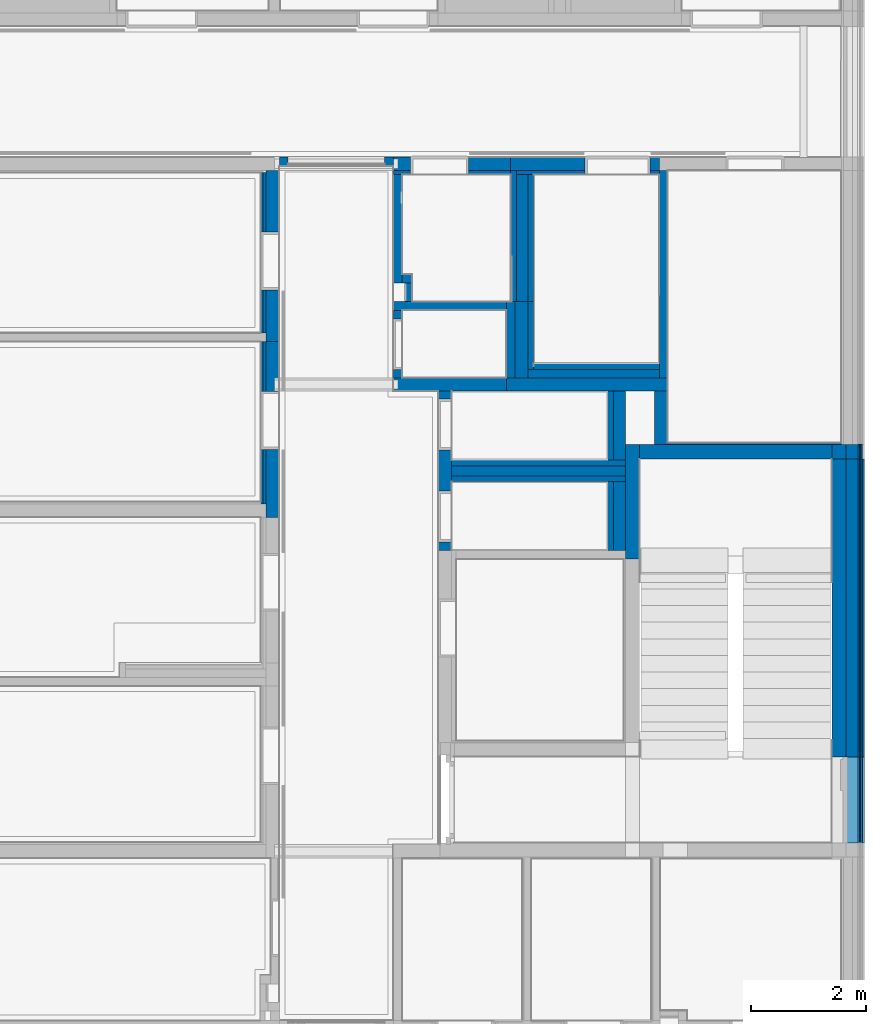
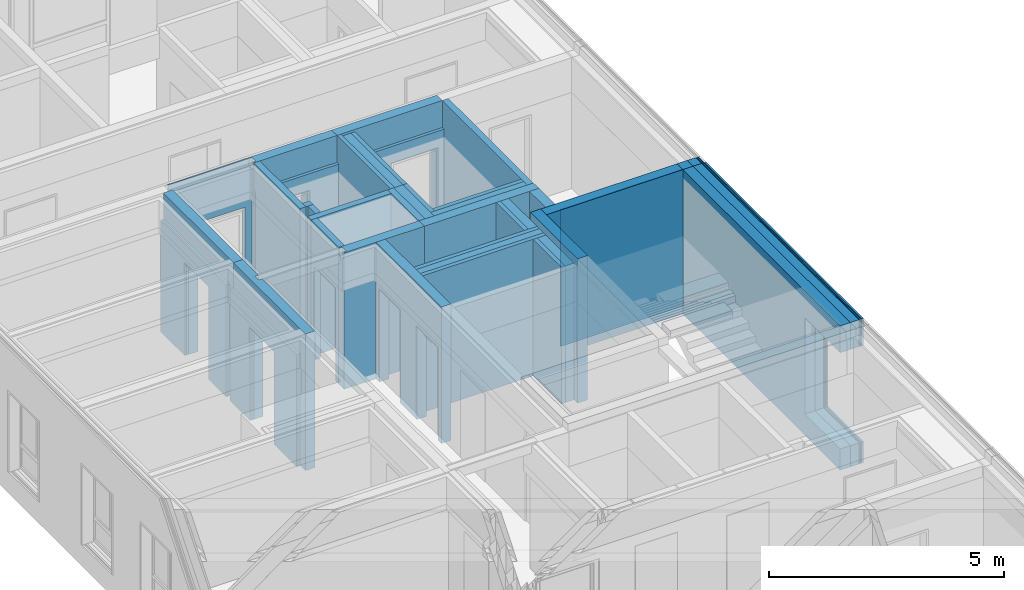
# One storey, part 52 of 222: 50 walls, 20 openings.
"""IFC4 building model written with IfcOpenShell, lengths in metres."""

from ifc_helpers import new_model, entity, si_unit, converted_unit, derived_unit, frame, frame_2d, origin, origin_with_axes, place, context, subcontext, project, spatial, polyline, rectangle, outline, extrude, clip, bounded_halfspace, material, element, save


model = new_model("IFC4")

# Units and contexts
model_context = context("Model", 3, precision=1e-05, world=origin())
body_context = subcontext(model_context, "Body", "Model", "MODEL_VIEW")
ifc_project = project(units=[si_unit("LENGTHUNIT", "METRE"), si_unit("AREAUNIT", "SQUARE_METRE"), si_unit("VOLUMEUNIT", "CUBIC_METRE"), si_unit("MASSUNIT", "GRAM", prefix="KILO"), converted_unit("PLANEANGLEUNIT", "DEGREE", entity("IfcPlaneAngleMeasure", 0.0174532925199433), si_unit("PLANEANGLEUNIT", "RADIAN"), dimensions=[0, 0, 0, 0, 0, 0, 0]), derived_unit("THERMALTRANSMITTANCEUNIT", [(si_unit("POWERUNIT", "WATT"), 1), (si_unit("THERMODYNAMICTEMPERATUREUNIT", "KELVIN"), -1), (si_unit("LENGTHUNIT", "METRE"), -2)]), derived_unit("VOLUMETRICFLOWRATEUNIT", [(si_unit("LENGTHUNIT", "METRE"), 3), (converted_unit("TIMEUNIT", "hour", entity("IfcTimeMeasure", 3600.0), si_unit("TIMEUNIT", "SECOND"), dimensions=[0, 0, 1, 0, 0, 0, 0]), -1), (si_unit("LENGTHUNIT", "METRE"), -1)])], contexts=[model_context])

# Site, building, storey
site_placement = place(None, origin())
site = spatial("IfcSite", under=ifc_project, at=site_placement, Name="Psychiatrie Neubau Wunstorf", CompositionType="ELEMENT")
building_placement = place(site_placement, origin())
building = spatial("IfcBuilding", under=site, at=building_placement, Name="Neubau H2 Stationsgebäude", CompositionType="ELEMENT")
storey_placement = place(building_placement, frame((0.0, 0.0, 3.6)))
storey = spatial("IfcBuildingStorey", under=building, at=storey_placement, Name="H2 Ebene +1", CompositionType="ELEMENT", Elevation=3.6)

# Walls
ifc_material_1 = material(Name="WA-STB")
wall_1_placement = place(storey_placement, frame((105.72, 17.825, 0.0), z_axis=(0.0, 0.0, 1.0), x_axis=(0.0, -1.0, 0.0)))
element("IfcWall", 1, at=wall_1_placement, inside=storey, material=ifc_material_1, context=body_context, shape_type="SweptSolid", body=[
    extrude(rectangle(XDim=0.25, YDim=0.25, at=frame_2d((0.125, 0.125), x_axis=(1.0, 0.0))), origin_with_axes(), (0.0, 0.0, 1.0), 3.75),
])
ifc_material_2 = material(Name="WA-DL")
wall_2_placement = place(storey_placement, frame((105.97, 17.825, 0.0), z_axis=(0.0, 0.0, 1.0), x_axis=(0.0, -1.0, 0.0)))
element("IfcWall", 2, at=wall_2_placement, inside=storey, material=ifc_material_2, context=body_context, shape_type="SweptSolid", body=[
    extrude(rectangle(XDim=0.25, YDim=0.21, at=frame_2d((0.125, 0.105), x_axis=(1.0, 0.0))), origin_with_axes(), (0.0, 0.0, 1.0), 3.75),
])
ifc_material_3 = material(Name="WA-LB")
wall_3_placement = place(storey_placement, frame((106.18, 17.825, 0.0), z_axis=(0.0, 0.0, 1.0), x_axis=(0.0, -1.0, 0.0)))
element("IfcWall", 3, at=wall_3_placement, inside=storey, material=ifc_material_3, context=body_context, shape_type="SweptSolid", body=[
    extrude(rectangle(XDim=0.25, YDim=0.021, at=frame_2d((0.125, 0.0105), x_axis=(1.0, 0.0))), origin_with_axes(), (0.0, 0.0, 1.0), 3.75),
])
ifc_material_4 = material(Name="WA-KL")
wall_4_placement = place(storey_placement, frame((106.201, 17.825, 0.0), z_axis=(0.0, 0.0, 1.0), x_axis=(0.0, -1.0, 0.0)))
element("IfcWall", 4, at=wall_4_placement, inside=storey, material=ifc_material_4, context=body_context, shape_type="SweptSolid", body=[
    extrude(rectangle(XDim=0.25, YDim=0.024, at=frame_2d((0.125, 0.012), x_axis=(1.0, 0.0))), origin_with_axes(), (0.0, 0.0, 1.0), 3.75),
])
ifc_material_5 = material(Name="WA-TL")
wall_5_placement = place(storey_placement, frame((106.225, 17.825, 0.0), z_axis=(0.0, 0.0, 1.0), x_axis=(0.0, -1.0, 0.0)))
element("IfcWall", 5, at=wall_5_placement, inside=storey, material=ifc_material_5, context=body_context, shape_type="SweptSolid", body=[
    extrude(rectangle(XDim=0.25, YDim=0.024, at=frame_2d((0.125, 0.012), x_axis=(1.0, 0.0))), origin_with_axes(), (0.0, 0.0, 1.0), 3.75),
])

# Wall, opening
ifc_material_6 = material(Name="WA-STB")
wall_6_placement = place(storey_placement, frame((105.72, 17.575, 0.0), z_axis=(0.0, 0.0, 1.0), x_axis=(0.0, -1.0, 0.0)))
wall_6 = element("IfcWall", 6, at=wall_6_placement, inside=storey, material=ifc_material_6, context=body_context, shape_type="SweptSolid", body=[
    extrude(rectangle(XDim=6.70000010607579, YDim=0.25, at=frame_2d((3.3500000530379, 0.125), x_axis=(1.0, 0.0))), origin_with_axes(), (0.0, 0.0, 1.0), 3.75),
])
opening_1_placement = place(wall_6_placement, frame((6.70000010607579, 0.25, 0.55), z_axis=(0.0, -1.0, 0.0), x_axis=(0.0, 0.0, 1.0)))
element("IfcOpeningElement", 7, at=opening_1_placement, cuts=wall_6, Name="Fensteröffnung", ObjectType="Opening", context=body_context, shape_type="SweptSolid", body=[
    extrude(outline(polyline([(2.5, 1.5), (2.5, 0.0), (0.0, 0.0), (0.0, 1.5), (2.5, 1.5)])), origin_with_axes(), (0.0, 0.0, 1.0), 0.25),
])

ifc_material_7 = material(Name="WA-DL")
wall_7_placement = place(storey_placement, frame((105.97, 17.575, 0.0), z_axis=(0.0, 0.0, 1.0), x_axis=(0.0, -1.0, 0.0)))
wall_7 = element("IfcWall", 8, at=wall_7_placement, inside=storey, material=ifc_material_7, context=body_context, shape_type="SweptSolid", body=[
    extrude(rectangle(XDim=6.70000010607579, YDim=0.21, at=frame_2d((3.3500000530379, 0.105), x_axis=(1.0, 0.0))), origin_with_axes(), (0.0, 0.0, 1.0), 3.75),
])
opening_2_placement = place(wall_7_placement, frame((6.70000010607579, 0.21, 0.55), z_axis=(0.0, -1.0, 0.0), x_axis=(0.0, 0.0, 1.0)))
element("IfcOpeningElement", 9, at=opening_2_placement, cuts=wall_7, Name="Fensteröffnung", ObjectType="Opening", context=body_context, shape_type="SweptSolid", body=[
    extrude(outline(polyline([(2.5, 1.5), (2.5, 0.0), (0.0, 0.0), (0.0, 1.5), (2.5, 1.5)])), origin_with_axes(), (0.0, 0.0, 1.0), 0.21),
])

ifc_material_8 = material(Name="WA-LB")
wall_8_placement = place(storey_placement, frame((106.18, 17.575, 0.0), z_axis=(0.0, 0.0, 1.0), x_axis=(0.0, -1.0, 0.0)))
wall_8 = element("IfcWall", 10, at=wall_8_placement, inside=storey, material=ifc_material_8, context=body_context, shape_type="SweptSolid", body=[
    extrude(rectangle(XDim=6.70000010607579, YDim=0.021, at=frame_2d((3.3500000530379, 0.0105), x_axis=(1.0, 0.0))), origin_with_axes(), (0.0, 0.0, 1.0), 3.75),
])
opening_3_placement = place(wall_8_placement, frame((6.70000010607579, 0.021, 0.55), z_axis=(0.0, -1.0, 0.0), x_axis=(0.0, 0.0, 1.0)))
element("IfcOpeningElement", 11, at=opening_3_placement, cuts=wall_8, Name="Fensteröffnung", ObjectType="Opening", context=body_context, shape_type="SweptSolid", body=[
    extrude(outline(polyline([(2.5, 1.5), (2.5, 0.0), (0.0, 0.0), (0.0, 1.5), (2.5, 1.5)])), origin_with_axes(), (0.0, 0.0, 1.0), 0.021),
])

ifc_material_9 = material(Name="WA-KL")
wall_9_placement = place(storey_placement, frame((106.201, 17.575, 0.0), z_axis=(0.0, 0.0, 1.0), x_axis=(0.0, -1.0, 0.0)))
wall_9 = element("IfcWall", 12, at=wall_9_placement, inside=storey, material=ifc_material_9, context=body_context, shape_type="SweptSolid", body=[
    extrude(rectangle(XDim=6.70000010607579, YDim=0.024, at=frame_2d((3.3500000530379, 0.012), x_axis=(1.0, 0.0))), origin_with_axes(), (0.0, 0.0, 1.0), 3.75),
])
opening_4_placement = place(wall_9_placement, frame((6.70000010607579, 0.024, 0.55), z_axis=(0.0, -1.0, 0.0), x_axis=(0.0, 0.0, 1.0)))
element("IfcOpeningElement", 13, at=opening_4_placement, cuts=wall_9, Name="Fensteröffnung", ObjectType="Opening", context=body_context, shape_type="SweptSolid", body=[
    extrude(outline(polyline([(2.5, 1.5), (2.5, 0.0), (0.0, 0.0), (0.0, 1.5), (2.5, 1.5)])), origin_with_axes(), (0.0, 0.0, 1.0), 0.024),
])

ifc_material_10 = material(Name="WA-TL")
wall_10_placement = place(storey_placement, frame((106.225, 17.575, 0.0), z_axis=(0.0, 0.0, 1.0), x_axis=(0.0, -1.0, 0.0)))
wall_10 = element("IfcWall", 14, at=wall_10_placement, inside=storey, material=ifc_material_10, context=body_context, shape_type="SweptSolid", body=[
    extrude(rectangle(XDim=6.70000010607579, YDim=0.024, at=frame_2d((3.3500000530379, 0.012), x_axis=(1.0, 0.0))), origin_with_axes(), (0.0, 0.0, 1.0), 3.75),
])
opening_5_placement = place(wall_10_placement, frame((6.70000010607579, 0.024, 0.55), z_axis=(0.0, -1.0, 0.0), x_axis=(0.0, 0.0, 1.0)))
element("IfcOpeningElement", 15, at=opening_5_placement, cuts=wall_10, Name="Fensteröffnung", ObjectType="Opening", context=body_context, shape_type="SweptSolid", body=[
    extrude(outline(polyline([(2.5, 1.5), (2.5, 0.0), (0.0, 0.0), (0.0, 1.5), (2.5, 1.5)])), origin_with_axes(), (0.0, 0.0, 1.0), 0.024),
])

ifc_material_11 = material(Name="WA-HS")
wall_11_placement = place(storey_placement, frame((106.249, 17.575, 0.0), z_axis=(0.0, 0.0, 1.0), x_axis=(0.0, -1.0, 0.0)))
wall_11 = element("IfcWall", 16, at=wall_11_placement, inside=storey, material=ifc_material_11, context=body_context, shape_type="SweptSolid", body=[
    extrude(rectangle(XDim=6.70000010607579, YDim=0.042, at=frame_2d((3.3500000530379, 0.021), x_axis=(1.0, 0.0))), origin_with_axes(), (0.0, 0.0, 1.0), 3.75),
])
opening_6_placement = place(wall_11_placement, frame((6.70000010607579, 0.042, 0.55), z_axis=(0.0, -1.0, 0.0), x_axis=(0.0, 0.0, 1.0)))
element("IfcOpeningElement", 17, at=opening_6_placement, cuts=wall_11, Name="Fensteröffnung", ObjectType="Opening", context=body_context, shape_type="SweptSolid", body=[
    extrude(outline(polyline([(2.5, 1.5), (2.5, 0.0), (0.0, 0.0), (0.0, 1.5), (2.5, 1.5)])), origin_with_axes(), (0.0, 0.0, 1.0), 0.042),
])

ifc_material_12 = material(Name="WI-LB")
wall_12_placement = place(storey_placement, frame((98.225, 18.9860040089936, 0.0), z_axis=(0.0, 0.0, 1.0), x_axis=(0.0, 1.0, 0.0)))
wall_12 = element("IfcWall", 18, at=wall_12_placement, inside=storey, material=ifc_material_12, context=body_context, shape_type="SweptSolid", body=[
    extrude(rectangle(XDim=1.17898976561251, YDim=0.15, at=frame_2d((0.589494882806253, 0.075), x_axis=(1.0, 0.0))), origin_with_axes(), (0.0, 0.0, 1.0), 3.55),
])
opening_7_placement = place(wall_12_placement, frame((1.02898976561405, 0.15, 0.0), z_axis=(0.0, -1.0, 0.0), x_axis=(0.0, 0.0, 1.0)))
element("IfcOpeningElement", 19, at=opening_7_placement, cuts=wall_12, Name="Türöffnung", ObjectType="Opening", context=body_context, shape_type="SweptSolid", body=[
    extrude(outline(polyline([(2.41, 0.885000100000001), (2.41, 0.0), (0.0, 0.0), (0.0, 0.885000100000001), (2.41, 0.885000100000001)])), origin_with_axes(), (0.0, 0.0, 1.0), 0.15),
])

# Wall
ifc_material_13 = material(Name="WI-LB")
wall_13_placement = place(storey_placement, frame((100.194993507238, 18.9860040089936, 0.0), z_axis=(0.0, 0.0, 1.0), x_axis=(-7.33833778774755e-09, 1.0, 0.0)))
element("IfcWall", 20, at=wall_13_placement, inside=storey, material=ifc_material_13, context=body_context, shape_type="SweptSolid", body=[
    extrude(rectangle(XDim=1.32900184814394, YDim=0.150006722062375, at=frame_2d((0.66450092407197, 0.0750033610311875), x_axis=(1.0, 0.0))), origin_with_axes(), (0.0, 0.0, 1.0), 3.55),
])

# Wall, openings
ifc_material_14 = material(Name="WI-HW 60")
wall_14_placement = place(storey_placement, frame((98.8589999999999, 18.7540040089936, 0.0), z_axis=(0.0, 0.0, 1.0), x_axis=(0.0, -1.0, 0.0)))
wall_14 = element("IfcWall", 21, at=wall_14_placement, inside=storey, material=ifc_material_14, context=body_context, shape_type="SweptSolid", body=[
    extrude(rectangle(XDim=2.7790026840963, YDim=0.232, at=frame_2d((1.38950134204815, 0.116), x_axis=(1.0, 0.0))), origin_with_axes(), (0.0, 0.0, 1.0), 3.55),
])
opening_8_placement = place(wall_14_placement, frame((1.7440026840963, 0.0, 0.0), z_axis=(0.0, 1.0, 0.0), x_axis=(0.0, 0.0, 1.0)))
element("IfcOpeningElement", 22, at=opening_8_placement, cuts=wall_14, Name="Türöffnung", ObjectType="Opening", context=body_context, shape_type="SweptSolid", body=[
    extrude(outline(polyline([(2.41, 0.885), (2.41, 0.0), (0.0, 0.0), (0.0, 0.885), (2.41, 0.885)])), origin_with_axes(), (0.0, 0.0, 1.0), 0.232),
])
opening_9_placement = place(wall_14_placement, frame((0.139001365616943, 0.0, 0.0), z_axis=(0.0, 1.0, 0.0), x_axis=(0.0, 0.0, 1.0)))
element("IfcOpeningElement", 23, at=opening_9_placement, cuts=wall_14, Name="Türöffnung", ObjectType="Opening", context=body_context, shape_type="SweptSolid", body=[
    extrude(outline(polyline([(2.41, 0.885), (2.41, 0.0), (0.0, 0.0), (0.0, 0.885), (2.41, 0.885)])), origin_with_axes(), (0.0, 0.0, 1.0), 0.232),
])

# Walls
ifc_material_15 = material(Name="WI-HW 60")
wall_15_placement = place(storey_placement, frame((100.044986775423, 18.9860040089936, 0.0), z_axis=(0.0, 0.0, 1.0), x_axis=(-1.0, 0.0, 0.0)))
element("IfcWall", 24, at=wall_15_placement, inside=storey, material=ifc_material_15, context=body_context, shape_type="Clipping", body=[
    clip(extrude(rectangle(XDim=1.96998677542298, YDim=0.232, at=frame_2d((0.984993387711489, 0.116), x_axis=(1.0, 0.0))), origin_with_axes(), (0.0, 0.0, 1.0), 3.55), bounded_halfspace(frame((1.93248679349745, 0.115995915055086, 3.35), z_axis=(0.0, 0.0, -1.0), x_axis=(0.0, 1.0, 0.0)), True, origin_with_axes(), polyline([(1.96998677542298, 0.0359959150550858), (1.96998677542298, 0.195995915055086), (1.89498681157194, 0.195995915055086), (1.89498681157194, 0.0359959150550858), (1.96998677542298, 0.0359959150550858)]))),
])
ifc_material_16 = material(Name="WI-HW 60")
wall_16_placement = place(storey_placement, frame((102.861, 18.9860037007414, 0.0), z_axis=(0.0, 0.0, 1.0), x_axis=(-0.999999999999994, 1.09464024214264e-07, 0.0)))
element("IfcWall", 25, at=wall_16_placement, inside=storey, material=ifc_material_16, context=body_context, shape_type="SweptSolid", body=[
    extrude(outline(polyline([(-2.81601319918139, -0.231999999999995), (-0.150006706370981, -0.231991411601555), (2.53956536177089e-08, -0.231999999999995), (0.0, 0.0), (-2.81601322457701, -3.08252150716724e-07), (-2.81601319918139, -0.231999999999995)])), frame((2.81601319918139, 0.231999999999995, 0.0), z_axis=(0.0, 0.0, 1.0), x_axis=(1.0, 0.0, 0.0)), (0.0, 0.0, 1.0), 3.55),
])
ifc_material_17 = material(Name="WI-HW 60")
wall_17_placement = place(storey_placement, frame((102.861, 17.825, 0.0), z_axis=(0.0, 0.0, 1.0), x_axis=(0.0, 1.0, 0.0)))
element("IfcWall", 26, at=wall_17_placement, inside=storey, material=ifc_material_17, context=body_context, shape_type="SweptSolid", body=[
    extrude(rectangle(XDim=0.929004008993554, YDim=0.232, at=frame_2d((0.464502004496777, 0.116), x_axis=(1.0, 0.0))), origin_with_axes(), (0.0, 0.0, 1.0), 3.55),
])
ifc_material_18 = material(Name="WI-LB")
wall_18_placement = place(storey_placement, frame((100.044986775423, 20.3150058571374, 0.0), z_axis=(0.0, 0.0, 1.0), x_axis=(-1.0, -9.47356286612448e-13, 0.0)))
element("IfcWall", 27, at=wall_18_placement, inside=storey, material=ifc_material_18, context=body_context, shape_type="SweptSolid", body=[
    extrude(rectangle(XDim=1.969990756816, YDim=0.150006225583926, at=frame_2d((0.984995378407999, 0.0750031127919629), x_axis=(1.0, 0.0))), origin_with_axes(), (0.0, 0.0, 1.0), 3.55),
])
ifc_material_19 = material(Name="WI-LB")
wall_19_placement = place(storey_placement, frame((102.861, 17.825, 0.0)))
element("IfcWall", 28, at=wall_19_placement, inside=storey, material=ifc_material_19, context=body_context, shape_type="SweptSolid", body=[
    extrude(rectangle(XDim=3.028, YDim=0.0299996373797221, at=frame_2d((1.514, 0.0149998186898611), x_axis=(1.0, 0.0))), origin_with_axes(), (0.0, 0.0, 1.0), 3.55),
])

# Wall, opening
ifc_material_20 = material(Name="WI-LB")
wall_20_placement = place(storey_placement, frame((95.7609999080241, 19.618, 0.0), z_axis=(0.0, 0.0, 1.0), x_axis=(0.0, -1.0, 0.0)))
wall_20 = element("IfcWall", 29, at=wall_20_placement, inside=storey, material=ifc_material_20, context=body_context, shape_type="SweptSolid", body=[
    extrude(rectangle(XDim=2.8325, YDim=0.0395, at=frame_2d((1.41625, 0.01975), x_axis=(1.0, 0.0))), origin_with_axes(), (0.0, 0.0, 1.0), 2.9),
])
opening_10_placement = place(wall_20_placement, frame((1.87810239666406, 0.0395, 0.0), z_axis=(0.0, -1.0, 0.0), x_axis=(0.0, 0.0, 1.0)))
element("IfcOpeningElement", 30, at=opening_10_placement, cuts=wall_20, Name="Türöffnung", ObjectType="Opening", context=body_context, shape_type="SweptSolid", body=[
    extrude(outline(polyline([(2.41, 1.01), (2.41, 0.0), (0.0, 0.0), (0.0, 1.01), (2.41, 1.01)])), origin_with_axes(), (0.0, 0.0, 1.0), 0.0395),
])

ifc_material_21 = material(Name="Installationsraum")
wall_21_placement = place(storey_placement, frame((95.8004999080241, 19.618, 0.0), z_axis=(0.0, 0.0, 1.0), x_axis=(0.0, -1.0, 0.0)))
wall_21 = element("IfcWall", 31, at=wall_21_placement, inside=storey, material=ifc_material_21, context=body_context, shape_type="SweptSolid", body=[
    extrude(rectangle(XDim=2.8325, YDim=0.05, at=frame_2d((1.41625, 0.025), x_axis=(1.0, 0.0))), origin_with_axes(), (0.0, 0.0, 1.0), 2.9),
])
opening_11_placement = place(wall_21_placement, frame((1.87810239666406, 0.05, 0.0), z_axis=(0.0, -1.0, 0.0), x_axis=(0.0, 0.0, 1.0)))
element("IfcOpeningElement", 32, at=opening_11_placement, cuts=wall_21, Name="Türöffnung", ObjectType="Opening", context=body_context, shape_type="SweptSolid", body=[
    extrude(outline(polyline([(2.41, 1.01), (2.41, 0.0), (0.0, 0.0), (0.0, 1.01), (2.41, 1.01)])), origin_with_axes(), (0.0, 0.0, 1.0), 0.05),
])

ifc_material_22 = material(Name="WI-HW 60")
wall_22_placement = place(storey_placement, frame((95.8504999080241, 19.618, 0.0), z_axis=(0.0, 0.0, 1.0), x_axis=(0.0, -1.0, 0.0)))
wall_22 = element("IfcWall", 33, at=wall_22_placement, inside=storey, material=ifc_material_22, context=body_context, shape_type="Clipping", body=[
    clip(extrude(rectangle(XDim=3.0645, YDim=0.232, at=frame_2d((1.53225, 0.116), x_axis=(1.0, 0.0))), origin_with_axes(), (0.0, 0.0, 1.0), 3.55), bounded_halfspace(frame((0.747991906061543, 0.19075002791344, 3.35), z_axis=(0.0, 0.0, -1.0), x_axis=(1.0, 0.0, 0.0)), True, origin_with_axes(), polyline([(0.667991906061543, 0.149500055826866), (0.827991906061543, 0.149500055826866), (0.827991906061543, 0.232000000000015), (0.667991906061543, 0.232000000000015), (0.667991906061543, 0.149500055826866)]))),
])
opening_12_placement = place(wall_22_placement, frame((1.87810239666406, 0.232, 0.0), z_axis=(0.0, -1.0, 0.0), x_axis=(0.0, 0.0, 1.0)))
element("IfcOpeningElement", 34, at=opening_12_placement, cuts=wall_22, Name="Türöffnung", ObjectType="Opening", context=body_context, shape_type="SweptSolid", body=[
    extrude(outline(polyline([(2.41, 1.01), (2.41, 0.0), (0.0, 0.0), (0.0, 1.01), (2.41, 1.01)])), origin_with_axes(), (0.0, 0.0, 1.0), 0.232),
])

ifc_material_23 = material(Name="WI-LB")
wall_23_placement = place(storey_placement, frame((95.7609999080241, 22.564, 0.0), z_axis=(0.0, 0.0, 1.0), x_axis=(0.0, -1.0, 0.0)))
wall_23 = element("IfcWall", 35, at=wall_23_placement, inside=storey, material=ifc_material_23, context=body_context, shape_type="SweptSolid", body=[
    extrude(rectangle(XDim=2.796, YDim=0.0395, at=frame_2d((1.398, 0.01975), x_axis=(1.0, 0.0))), origin_with_axes(), (0.0, 0.0, 1.0), 2.9),
])
opening_13_placement = place(wall_23_placement, frame((2.046, 0.0395, 0.0), z_axis=(0.0, -1.0, 0.0), x_axis=(0.0, 0.0, 1.0)))
element("IfcOpeningElement", 36, at=opening_13_placement, cuts=wall_23, Name="Türöffnung", ObjectType="Opening", context=body_context, shape_type="SweptSolid", body=[
    extrude(outline(polyline([(2.41, 1.01), (2.41, 0.0), (0.0, 0.0), (0.0, 1.01), (2.41, 1.01)])), origin_with_axes(), (0.0, 0.0, 1.0), 0.0395),
])

ifc_material_24 = material(Name="Installationsraum")
wall_24_placement = place(storey_placement, frame((95.8004999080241, 22.564, 0.0), z_axis=(0.0, 0.0, 1.0), x_axis=(0.0, -1.0, 0.0)))
wall_24 = element("IfcWall", 37, at=wall_24_placement, inside=storey, material=ifc_material_24, context=body_context, shape_type="SweptSolid", body=[
    extrude(rectangle(XDim=2.796, YDim=0.05, at=frame_2d((1.398, 0.025), x_axis=(1.0, 0.0))), origin_with_axes(), (0.0, 0.0, 1.0), 2.9),
])
opening_14_placement = place(wall_24_placement, frame((2.046, 0.05, 0.0), z_axis=(0.0, -1.0, 0.0), x_axis=(0.0, 0.0, 1.0)))
element("IfcOpeningElement", 38, at=opening_14_placement, cuts=wall_24, Name="Türöffnung", ObjectType="Opening", context=body_context, shape_type="SweptSolid", body=[
    extrude(outline(polyline([(2.41, 1.01), (2.41, 0.0), (0.0, 0.0), (0.0, 1.01), (2.41, 1.01)])), origin_with_axes(), (0.0, 0.0, 1.0), 0.05),
])

ifc_material_25 = material(Name="WI-HW 60")
wall_25_placement = place(storey_placement, frame((95.8504999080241, 22.604, 0.0), z_axis=(0.0, 0.0, 1.0), x_axis=(0.0, -1.0, 0.0)))
wall_25 = element("IfcWall", 39, at=wall_25_placement, inside=storey, material=ifc_material_25, context=body_context, shape_type="SweptSolid", body=[
    extrude(rectangle(XDim=2.986, YDim=0.232, at=frame_2d((1.493, 0.116), x_axis=(1.0, 0.0))), origin_with_axes(), (0.0, 0.0, 1.0), 3.55),
])
opening_15_placement = place(wall_25_placement, frame((2.086, 0.232, 0.0), z_axis=(0.0, -1.0, 0.0), x_axis=(0.0, 0.0, 1.0)))
element("IfcOpeningElement", 40, at=opening_15_placement, cuts=wall_25, Name="Türöffnung", ObjectType="Opening", context=body_context, shape_type="SweptSolid", body=[
    extrude(outline(polyline([(2.41, 1.01), (2.41, 0.0), (0.0, 0.0), (0.0, 1.01), (2.41, 1.01)])), origin_with_axes(), (0.0, 0.0, 1.0), 0.232),
])

# Wall
ifc_material_26 = material(Name="WI-LB")
wall_26_placement = place(storey_placement, frame((98.075, 22.604, 0.0), z_axis=(0.0, 0.0, 1.0), x_axis=(0.0, -1.0, 0.0)))
element("IfcWall", 41, at=wall_26_placement, inside=storey, material=ifc_material_26, context=body_context, shape_type="SweptSolid", body=[
    extrude(outline(polyline([(-1.96400428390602, 0.0), (0.0, 0.0), (0.0, 0.15000497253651), (-0.15, 0.15000497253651), (-1.96400428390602, 0.150000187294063), (-1.96400428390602, 0.0)])), frame((1.96400428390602, 0.0, 0.0), z_axis=(0.0, 0.0, 1.0), x_axis=(1.0, 0.0, 0.0)), (0.0, 0.0, 1.0), 3.55),
])

# Wall, opening
ifc_material_27 = material(Name="WI-LB")
wall_27_placement = place(storey_placement, frame((98.075, 22.5290000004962, 0.0)))
wall_27 = element("IfcWall", 42, at=wall_27_placement, inside=storey, material=ifc_material_27, context=body_context, shape_type="SweptSolid", body=[
    extrude(rectangle(XDim=2.04499214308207, YDim=0.075, at=frame_2d((1.02249607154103, 0.0375), x_axis=(1.0, 0.0))), origin_with_axes(), (0.0, 0.0, 1.0), 2.85),
])
opening_16_placement = place(wall_27_placement, frame((0.300006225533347, 0.0, 0.0), z_axis=(0.0, 1.0, 0.0), x_axis=(0.0, 0.0, 1.0)))
element("IfcOpeningElement", 43, at=opening_16_placement, cuts=wall_27, Name="Türöffnung", ObjectType="Opening", context=body_context, shape_type="SweptSolid", body=[
    extrude(outline(polyline([(2.41, 1.01), (2.41, 0.0), (0.0, 0.0), (0.0, 1.01), (2.41, 1.01)])), origin_with_axes(), (0.0, 0.0, 1.0), 0.075),
])

ifc_material_28 = material(Name="WI-HW 60")
wall_28_placement = place(storey_placement, frame((98.075, 22.6040000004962, 0.0)))
wall_28 = element("IfcWall", 44, at=wall_28_placement, inside=storey, material=ifc_material_28, context=body_context, shape_type="Clipping", body=[
    clip(extrude(rectangle(XDim=2.04499209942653, YDim=0.232000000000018, at=frame_2d((1.02249604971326, 0.116000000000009), x_axis=(1.0, 0.0))), origin_with_axes(), (0.0, 0.0, 1.0), 3.55), bounded_halfspace(frame((0.0374999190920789, 0.116002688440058, 3.35), z_axis=(0.0, 0.0, -1.0), x_axis=(-2.11934093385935e-08, -1.0, 0.0)), True, origin_with_axes(), polyline([(0.0, 0.196002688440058), (0.0, 0.0360026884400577), (0.0749998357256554, 0.0360026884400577), (0.0749998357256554, 0.196002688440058), (0.0, 0.196002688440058)]))),
])
opening_17_placement = place(wall_28_placement, frame((0.300006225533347, 0.0, 0.0), z_axis=(0.0, 1.0, 0.0), x_axis=(0.0, 0.0, 1.0)))
element("IfcOpeningElement", 45, at=opening_17_placement, cuts=wall_28, Name="Türöffnung", ObjectType="Opening", context=body_context, shape_type="SweptSolid", body=[
    extrude(outline(polyline([(2.41, 1.01), (2.41, 0.0), (0.0, 0.0), (0.0, 1.01), (2.41, 1.01)])), origin_with_axes(), (0.0, 0.0, 1.0), 0.232),
])

ifc_material_29 = material(Name="WI-LB")
wall_29_placement = place(storey_placement, frame((100.21999212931, 22.5290000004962, 0.0)))
wall_29 = element("IfcWall", 46, at=wall_29_placement, inside=storey, material=ifc_material_29, context=body_context, shape_type="SweptSolid", body=[
    extrude(rectangle(XDim=2.49100137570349, YDim=0.075, at=frame_2d((1.24550068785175, 0.0375), x_axis=(1.0, 0.0))), origin_with_axes(), (0.0, 0.0, 1.0), 2.85),
])
opening_18_placement = place(wall_29_placement, frame((1.19500137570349, 0.0, 0.0), z_axis=(0.0, 1.0, 0.0), x_axis=(0.0, 0.0, 1.0)))
element("IfcOpeningElement", 47, at=opening_18_placement, cuts=wall_29, Name="Türöffnung", ObjectType="Opening", context=body_context, shape_type="SweptSolid", body=[
    extrude(outline(polyline([(2.41, 1.135), (2.41, 0.0), (0.0, 0.0), (0.0, 1.135), (2.41, 1.135)])), origin_with_axes(), (0.0, 0.0, 1.0), 0.075),
])

ifc_material_30 = material(Name="WI-HW 60")
wall_30_placement = place(storey_placement, frame((100.119992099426, 22.6040000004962, 0.0)))
wall_30 = element("IfcWall", 48, at=wall_30_placement, inside=storey, material=ifc_material_30, context=body_context, shape_type="SweptSolid", body=[
    extrude(rectangle(XDim=2.59100140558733, YDim=0.232, at=frame_2d((1.29550070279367, 0.116), x_axis=(1.0, 0.0))), origin_with_axes(), (0.0, 0.0, 1.0), 3.55),
])
opening_19_placement = place(wall_30_placement, frame((1.29500140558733, 0.0, 0.0), z_axis=(0.0, 1.0, 0.0), x_axis=(0.0, 0.0, 1.0)))
element("IfcOpeningElement", 49, at=opening_19_placement, cuts=wall_30, Name="Türöffnung", ObjectType="Opening", context=body_context, shape_type="SweptSolid", body=[
    extrude(outline(polyline([(2.41, 1.135), (2.41, 0.0), (0.0, 0.0), (0.0, 1.135), (2.41, 1.135)])), origin_with_axes(), (0.0, 0.0, 1.0), 0.232),
])

# Walls
ifc_material_31 = material(Name="WI-LB")
wall_31_placement = place(storey_placement, frame((102.861, 18.9860037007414, 0.0), z_axis=(0.0, 0.0, 1.0), x_axis=(0.0, 1.0, 0.0)))
element("IfcWall", 50, at=wall_31_placement, inside=storey, material=ifc_material_31, context=body_context, shape_type="SweptSolid", body=[
    extrude(rectangle(XDim=3.61799633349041, YDim=0.150006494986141, at=frame_2d((1.8089981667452, 0.0750032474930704), x_axis=(1.0, 0.0))), origin_with_axes(), (0.0, 0.0, 1.0), 3.55),
])
ifc_material_32 = material(Name="WI-IW")
wall_32_placement = place(storey_placement, frame((100.119992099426, 22.6040000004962, 0.0), z_axis=(0.0, 0.0, 1.0), x_axis=(3.98451295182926e-07, -0.999999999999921, 0.0)))
element("IfcWall", 51, at=wall_32_placement, inside=storey, material=ifc_material_32, context=body_context, shape_type="SweptSolid", body=[
    extrude(rectangle(XDim=2.28899414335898, YDim=0.1, at=frame_2d((1.14449707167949, 0.05), x_axis=(1.0, 0.0))), origin_with_axes(), (0.0, 0.0, 1.0), 3.55),
])
ifc_material_33 = material(Name="Installationsraum")
wall_33_placement = place(storey_placement, frame((100.21999212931, 22.5290000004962, 0.0), z_axis=(0.0, 0.0, 1.0), x_axis=(3.98451297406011e-07, -0.999999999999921, 0.0)))
element("IfcWall", 52, at=wall_33_placement, inside=storey, material=ifc_material_33, context=body_context, shape_type="SweptSolid", body=[
    extrude(rectangle(XDim=2.21399414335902, YDim=0.200000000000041, at=frame_2d((1.10699707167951, 0.100000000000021), x_axis=(1.0, 0.0))), origin_with_axes(), (0.0, 0.0, 1.0), 3.55),
])
ifc_material_34 = material(Name="WI-IW")
wall_34_placement = place(storey_placement, frame((100.41999212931, 22.5290000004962, 0.0), z_axis=(0.0, 0.0, 1.0), x_axis=(3.9845129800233e-07, -0.999999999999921, 0.0)))
element("IfcWall", 53, at=wall_34_placement, inside=storey, material=ifc_material_34, context=body_context, shape_type="SweptSolid", body=[
    extrude(rectangle(XDim=2.21399421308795, YDim=0.0999999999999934, at=frame_2d((1.10699710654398, 0.0499999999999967), x_axis=(1.0, 0.0))), origin_with_axes(), (0.0, 0.0, 1.0), 3.55),
])
ifc_material_35 = material(Name="Installationsraum")
wall_35_placement = place(storey_placement, frame((100.419993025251, 18.9860032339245, 0.0)))
element("IfcWall", 54, at=wall_35_placement, inside=storey, material=ifc_material_35, context=body_context, shape_type="SweptSolid", body=[
    extrude(rectangle(XDim=2.29100047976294, YDim=0.15, at=frame_2d((1.14550023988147, 0.075), x_axis=(1.0, 0.0))), origin_with_axes(), (0.0, 0.0, 1.0), 3.55),
])
ifc_material_36 = material(Name="WI-VS")
wall_36_placement = place(storey_placement, frame((100.519993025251, 19.1360032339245, 0.0)))
element("IfcWall", 55, at=wall_36_placement, inside=storey, material=ifc_material_36, context=body_context, shape_type="SweptSolid", body=[
    extrude(rectangle(XDim=2.19100047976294, YDim=0.1, at=frame_2d((1.09550023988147, 0.05), x_axis=(1.0, 0.0))), origin_with_axes(), (0.0, 0.0, 1.0), 3.55),
])
ifc_material_37 = material(Name="Installationsraum")
wall_37_placement = place(storey_placement, frame((102.12, 17.5520026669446, 0.0), z_axis=(0.0, 0.0, 1.0), x_axis=(0.0, 1.0, 0.0)))
element("IfcWall", 56, at=wall_37_placement, inside=storey, material=ifc_material_37, context=body_context, shape_type="SweptSolid", body=[
    extrude(rectangle(XDim=1.20200134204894, YDim=0.21, at=frame_2d((0.601000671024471, 0.105), x_axis=(1.0, 0.0))), origin_with_axes(), (0.0, 0.0, 1.0), 3.55),
])
ifc_material_38 = material(Name="WI-VS")
wall_38_placement = place(storey_placement, frame((101.91, 17.5520026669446, 0.0), z_axis=(0.0, 0.0, 1.0), x_axis=(0.0, 1.0, 0.0)))
element("IfcWall", 57, at=wall_38_placement, inside=storey, material=ifc_material_38, context=body_context, shape_type="SweptSolid", body=[
    extrude(rectangle(XDim=1.20200134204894, YDim=0.1, at=frame_2d((0.601000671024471, 0.05), x_axis=(1.0, 0.0))), origin_with_axes(), (0.0, 0.0, 1.0), 3.55),
])
ifc_material_39 = material(Name="Installationsraum")
wall_39_placement = place(storey_placement, frame((102.12, 15.9749998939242, 0.0), z_axis=(0.0, 0.0, 1.0), x_axis=(0.0, 1.0, 0.0)))
element("IfcWall", 58, at=wall_39_placement, inside=storey, material=ifc_material_39, context=body_context, shape_type="SweptSolid", body=[
    extrude(rectangle(XDim=1.20200277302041, YDim=0.21, at=frame_2d((0.601001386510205, 0.105), x_axis=(1.0, 0.0))), origin_with_axes(), (0.0, 0.0, 1.0), 3.55),
])
ifc_material_40 = material(Name="WI-VS")
wall_40_placement = place(storey_placement, frame((101.91, 15.9749998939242, 0.0), z_axis=(0.0, 0.0, 1.0), x_axis=(0.0, 1.0, 0.0)))
element("IfcWall", 59, at=wall_40_placement, inside=storey, material=ifc_material_40, context=body_context, shape_type="SweptSolid", body=[
    extrude(rectangle(XDim=1.20200277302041, YDim=0.1, at=frame_2d((0.601001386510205, 0.05), x_axis=(1.0, 0.0))), origin_with_axes(), (0.0, 0.0, 1.0), 3.55),
])
ifc_material_41 = material(Name="WI-IW")
wall_41_placement = place(storey_placement, frame((99.0909999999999, 17.1770026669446, 0.0)))
element("IfcWall", 60, at=wall_41_placement, inside=storey, material=ifc_material_41, context=body_context, shape_type="SweptSolid", body=[
    extrude(rectangle(XDim=3.029, YDim=0.1, at=frame_2d((1.5145, 0.05), x_axis=(1.0, 0.0))), origin_with_axes(), (0.0, 0.0, 1.0), 3.55),
])
ifc_material_42 = material(Name="Installationsraum")
wall_42_placement = place(storey_placement, frame((99.0909999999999, 17.2770026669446, 0.0)))
element("IfcWall", 61, at=wall_42_placement, inside=storey, material=ifc_material_42, context=body_context, shape_type="SweptSolid", body=[
    extrude(rectangle(XDim=3.029, YDim=0.175, at=frame_2d((1.5145, 0.0875), x_axis=(1.0, 0.0))), origin_with_axes(), (0.0, 0.0, 1.0), 3.55),
])
ifc_material_43 = material(Name="WI-IW")
wall_43_placement = place(storey_placement, frame((99.0909999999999, 17.4520026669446, 0.0)))
element("IfcWall", 62, at=wall_43_placement, inside=storey, material=ifc_material_43, context=body_context, shape_type="SweptSolid", body=[
    extrude(rectangle(XDim=3.029, YDim=0.1, at=frame_2d((1.5145, 0.05), x_axis=(1.0, 0.0))), origin_with_axes(), (0.0, 0.0, 1.0), 3.55),
])
ifc_material_44 = material(Name="Installationsraum")
wall_44_placement = place(storey_placement, frame((100.194993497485, 20.3150057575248, 0.0), z_axis=(0.0, 0.0, 1.0), x_axis=(7.33834500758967e-09, -1.0, 0.0)))
element("IfcWall", 63, at=wall_44_placement, inside=storey, material=ifc_material_44, context=body_context, shape_type="SweptSolid", body=[
    extrude(rectangle(XDim=1.32900252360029, YDim=0.22499951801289, at=frame_2d((0.664501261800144, 0.112499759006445), x_axis=(1.0, 0.0))), origin_with_axes(), (0.0, 0.0, 1.0), 3.55),
])
ifc_material_45 = material(Name="WI-IW")
wall_45_placement = place(storey_placement, frame((100.419993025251, 20.3150057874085, 0.0), z_axis=(0.0, 0.0, 1.0), x_axis=(0.0, -1.0, 0.0)))
element("IfcWall", 64, at=wall_45_placement, inside=storey, material=ifc_material_45, context=body_context, shape_type="SweptSolid", body=[
    extrude(rectangle(XDim=1.17900255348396, YDim=0.1, at=frame_2d((0.589501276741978, 0.05), x_axis=(1.0, 0.0))), origin_with_axes(), (0.0, 0.0, 1.0), 3.55),
])
ifc_material_46 = material(Name="WI-LB")
wall_46_placement = place(storey_placement, frame((98.274996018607, 20.639995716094, 0.0), z_axis=(0.0, 0.0, 1.0), x_axis=(0.0, -1.0, 0.0)))
element("IfcWall", 65, at=wall_46_placement, inside=storey, material=ifc_material_46, context=body_context, shape_type="SweptSolid", body=[
    extrude(rectangle(XDim=0.324989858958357, YDim=0.125, at=frame_2d((0.162494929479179, 0.0625), x_axis=(1.0, 0.0))), origin_with_axes(), (0.0, 0.0, 1.0), 3.55),
])

# Wall, opening
ifc_material_47 = material(Name="WI-LB")
wall_47_placement = place(storey_placement, frame((96.0824999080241, 22.681, 0.0)))
wall_47 = element("IfcWall", 66, at=wall_47_placement, inside=storey, material=ifc_material_47, context=body_context, shape_type="Clipping", body=[
    clip(extrude(rectangle(XDim=1.99250000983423, YDim=0.155, at=frame_2d((0.996250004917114, 0.0775), x_axis=(1.0, 0.0))), origin_with_axes(), (0.0, 0.0, 1.0), 3.55), bounded_halfspace(frame((0.996250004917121, 0.0595013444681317, 3.35), z_axis=(0.0, 0.0, -1.0), x_axis=(-1.0, 1.82583628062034e-15, 0.0)), True, origin_with_axes(), polyline([(1.99250000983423, 0.119002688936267), (0.0, 0.119002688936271), (0.0, 0.0), (1.99250000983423, 0.0), (1.99250000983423, 0.119002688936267)]))),
])
opening_20_placement = place(wall_47_placement, frame((1.83750000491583, 0.155, 0.0), z_axis=(0.0, -1.0, 0.0), x_axis=(0.0, 0.0, 1.0)))
element("IfcOpeningElement", 67, at=opening_20_placement, cuts=wall_47, Name="Türöffnung", ObjectType="Opening", context=body_context, shape_type="SweptSolid", body=[
    extrude(outline(polyline([(2.41, 1.6825), (2.41, 0.0), (0.0, 0.0), (0.0, 1.6825), (2.41, 1.6825)])), origin_with_axes(), (0.0, 0.0, 1.0), 0.155),
])

# Walls
ifc_material_48 = material(Name="WI-LB")
wall_48_placement = place(storey_placement, frame((98.2250049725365, 20.639995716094, 0.0)))
element("IfcWall", 68, at=wall_48_placement, inside=storey, material=ifc_material_48, context=body_context, shape_type="SweptSolid", body=[
    extrude(rectangle(XDim=0.17499104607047, YDim=0.15, at=frame_2d((0.0874955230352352, 0.075), x_axis=(1.0, 0.0))), origin_with_axes(), (0.0, 0.0, 1.0), 3.55),
])
ifc_material_49 = material(Name="WI-STB")
wall_49_placement = place(storey_placement, frame((102.12, 17.825, 0.0), z_axis=(0.0, 0.0, 1.0), x_axis=(0.0, -1.0, 0.0)))
element("IfcWall", 69, at=wall_49_placement, inside=storey, material=ifc_material_49, context=body_context, shape_type="SweptSolid", body=[
    extrude(rectangle(XDim=2.0000001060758, YDim=0.25, at=frame_2d((1.0000000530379, 0.125), x_axis=(1.0, 0.0))), origin_with_axes(), (0.0, 0.0, 1.0), 3.75),
])
ifc_material_50 = material(Name="WI-STB")
wall_50_placement = place(storey_placement, frame((105.72, 17.825, 0.0), z_axis=(0.0, 0.0, 1.0), x_axis=(-1.0, 0.0, 0.0)))
element("IfcWall", 70, at=wall_50_placement, inside=storey, material=ifc_material_50, context=body_context, shape_type="SweptSolid", body=[
    extrude(rectangle(XDim=3.35000000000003, YDim=0.25, at=frame_2d((1.67500000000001, 0.125), x_axis=(1.0, 0.0))), origin_with_axes(), (0.0, 0.0, 1.0), 3.75),
])

save(model, "model.ifc")
